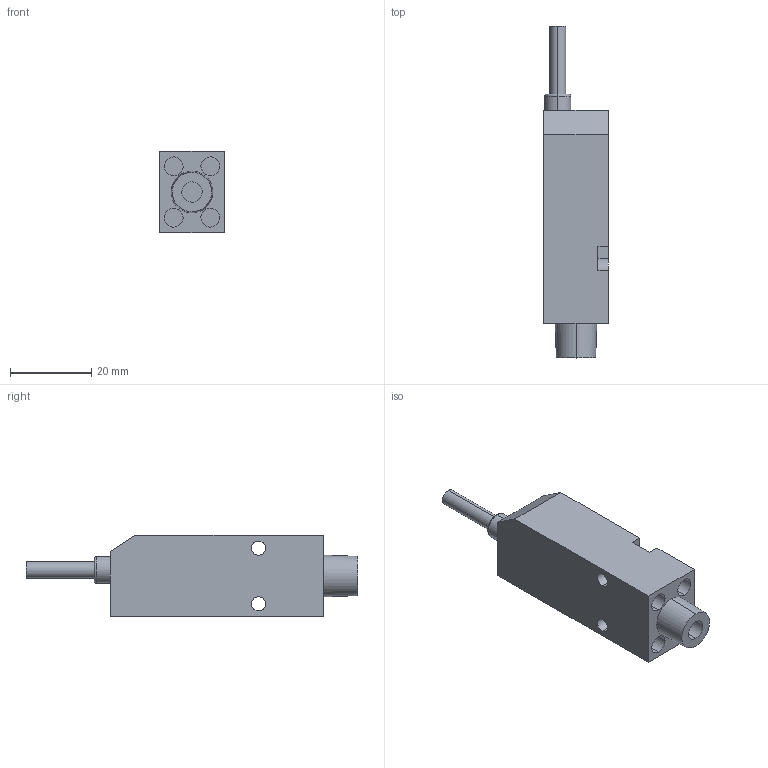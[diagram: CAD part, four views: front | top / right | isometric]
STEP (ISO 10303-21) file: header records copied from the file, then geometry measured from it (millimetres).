
FILE_DESCRIPTION((''),'2;1');
FILE_NAME('','2012-03-12T17:20:59',(''),(''),'','CADfix','');
FILE_SCHEMA(('AUTOMOTIVE_DESIGN { 1 0 10303 214 1 1 1 1 }'));
Length unit declared in the file: millimetre
Bounding box: 16 x 81.76 x 20 mm (x, y, z)
Volume: 16428.1 mm3; surface area: 5848.6 mm2
Topology: 1 solids, 1 shells, 50 faces, 161 edges, 122 vertices
Faces by surface type: bspline 50
Entity records: 1982 total; most frequent: CARTESIAN_POINT 1096, ORIENTED_EDGE 322, EDGE_CURVE 161, VERTEX_POINT 122, EDGE_LOOP 63, QUASI_UNIFORM_CURVE 63, FACE_OUTER_BOUND 50, ADVANCED_FACE 50
